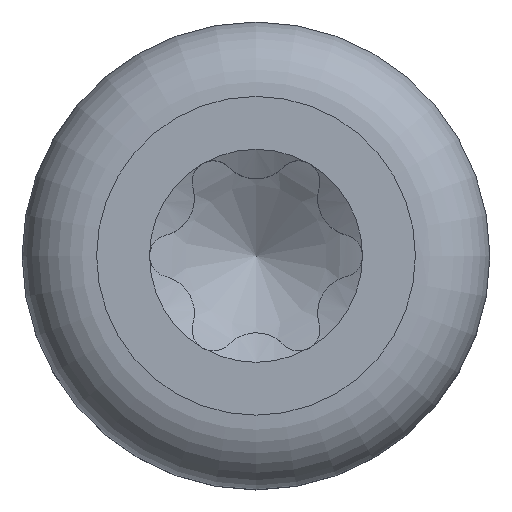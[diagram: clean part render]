
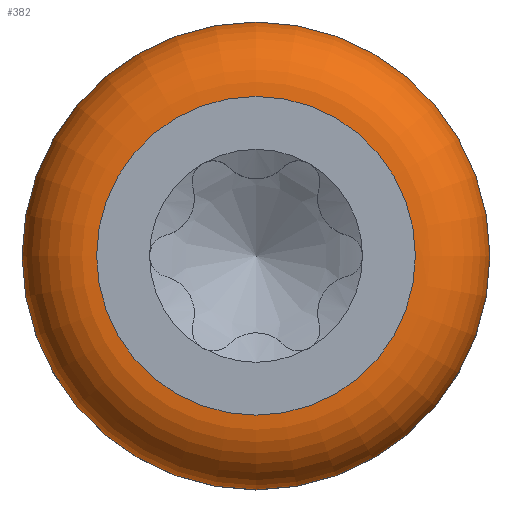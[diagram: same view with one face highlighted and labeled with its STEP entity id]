
A CAD part, top view. The second image highlights one B-rep face of the part: STEP entity #382.
In plain terms, the highlighted toroidal (fillet/blend) face has major radius 4.19 mm and minor radius 1.96 mm.
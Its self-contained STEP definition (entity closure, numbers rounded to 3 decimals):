
#351=TOROIDAL_SURFACE('',#1945,4.19,1.96);
#362=FACE_BOUND('',#637,.T.);
#363=FACE_BOUND('',#638,.T.);
#382=ADVANCED_FACE('',(#362,#363),#351,.T.);
#637=EDGE_LOOP('',(#845));
#638=EDGE_LOOP('',(#846));
#769=CIRCLE('',#1942,6.15);
#770=CIRCLE('',#1944,4.19);
#845=ORIENTED_EDGE('',*,*,#1554,.F.);
#846=ORIENTED_EDGE('',*,*,#1553,.T.);
#1387=VERTEX_POINT('',#4433);
#1388=VERTEX_POINT('',#4436);
#1553=EDGE_CURVE('',#1387,#1387,#769,.T.);
#1554=EDGE_CURVE('',#1388,#1388,#770,.T.);
#1942=AXIS2_PLACEMENT_3D('',#4432,#2010,#2011);
#1944=AXIS2_PLACEMENT_3D('',#4435,#2014,#2015);
#1945=AXIS2_PLACEMENT_3D('',#4437,#2016,#2017);
#2010=DIRECTION('',(0.,0.,1.));
#2011=DIRECTION('',(1.,0.,0.));
#2014=DIRECTION('',(0.,0.,1.));
#2015=DIRECTION('',(1.,0.,0.));
#2016=DIRECTION('',(0.,0.,1.));
#2017=DIRECTION('',(1.,0.,0.));
#4432=CARTESIAN_POINT('',(0.,0.,2.94));
#4433=CARTESIAN_POINT('',(6.15,0.,2.94));
#4435=CARTESIAN_POINT('',(0.,0.,4.9));
#4436=CARTESIAN_POINT('',(4.19,0.,4.9));
#4437=CARTESIAN_POINT('',(0.,0.,2.94));
